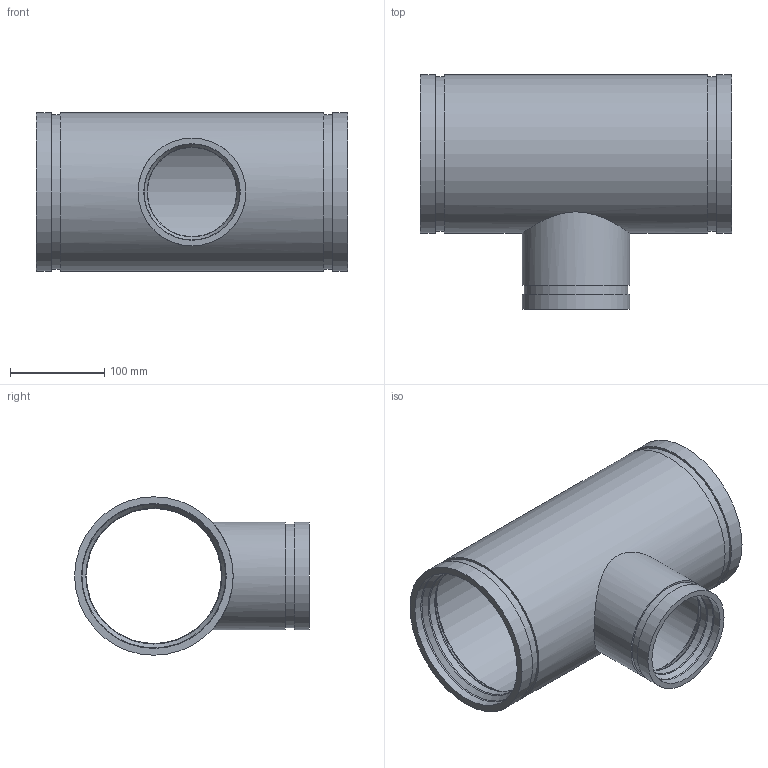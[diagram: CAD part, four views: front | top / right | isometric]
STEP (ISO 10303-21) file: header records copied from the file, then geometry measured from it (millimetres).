
FILE_DESCRIPTION(/* description */ ('VIC REDUCING TEE No 425H-SS','CAx-IF Rec.Pracs.---Representation and Presentation of Product Manufacturing Information (PMI)---4.0---2014-10-13'),/* implementation_level */ '2;1');
FILE_NAME(/* name */ 'C:\Users\kkamble\AppData\Roaming\Autodesk\ApplicationPlugins\Back Up\Victaulic_SS-OGS_Tee Reducing_Sched 40S_No 425H SS (OGS)\Victaulic_SS-OGS_Tee Reducing_Sched 40S_No 425H SS (OGS)_06.0x04.0 (150x100).stp',/* time_stamp */ '2020-08-27T17:20:07+06:00',/* author */ ('CORINNE GRAY'),/* organization */ ('Victaulic'),/* preprocessor_version */ 'ST-DEVELOPER v17.2',/* originating_system */ 'Autodesk Inventor 2019',/* authorisation */ '');
FILE_SCHEMA (('AP242_MANAGED_MODEL_BASED_3D_ENGINEERING_MIM_LF { 1 0 10303 442 1 1 4 }'));
Length unit declared in the file: inch
Products named in the file (1): 425H SS-06.0x04.0
Bounding box: 330.2 x 249.24 x 168.28 mm (x, y, z)
Volume: 1406772.1 mm3; surface area: 395953.3 mm2
Topology: 1 solids, 1 shells, 43 faces, 134 edges, 100 vertices
Faces by surface type: cylinder 16, torus 12, plane 9, cone 6
Full cylindrical faces by diameter (mm): 94.64 x1, 102.362 x2, 110.084 x1, 114.3 x2, 143.383 x2, 153.67 x3, 163.957 x2, 168.275 x3
Entity records: 1919 total; most frequent: CARTESIAN_POINT 427, DIRECTION 352, ORIENTED_EDGE 268, AXIS2_PLACEMENT_3D 165, EDGE_CURVE 134, CIRCLE 108, VERTEX_POINT 100, EDGE_LOOP 54
